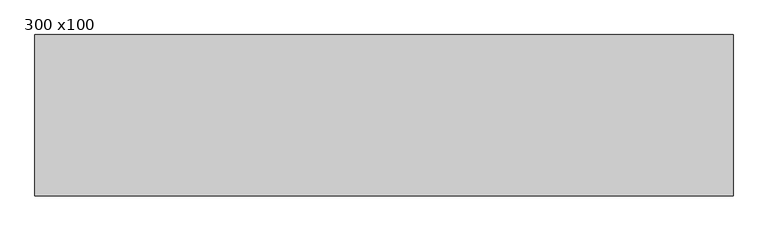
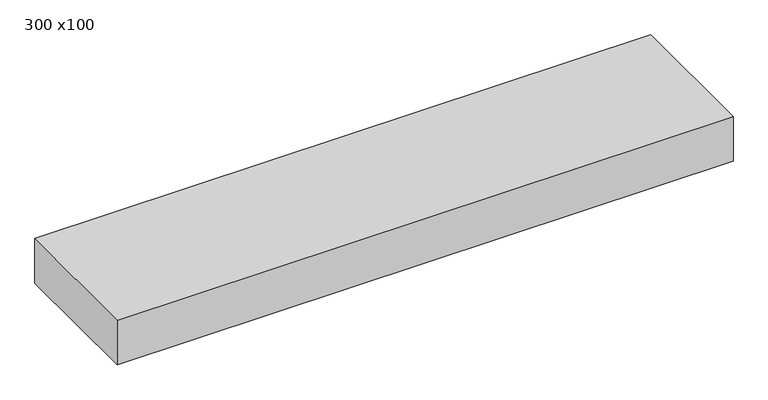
"""IFC4 building model written with IfcOpenShell, lengths in millimetres: beam geometry, Glulam-Especies occidentales : 300 x100."""

from ifc_helpers import new_model, si_unit, frame, origin, place, context, project, spatial, polyline, outline, extrude, source, transform, mapped, element, save


def beam_300_x100_1f1f1255(model_context):
    return source(origin(), model_context, "Body", "SweptSolid", [
        extrude(outline(polyline([(649.5, 150.0), (649.5, -150.0), (-649.5, -150.0), (-649.5, 150.0), (649.5, 150.0)])), frame((0.0, 0.0, -50.0), z_axis=(0.0, 0.0, 1.0), x_axis=(1.0, 0.0, 0.0)), (0.0, 0.0, 1.0), 100.0),
    ])


if __name__ == "__main__":
    model = new_model("IFC4")
    model_context = context("Model", 3, world=origin())
    ifc_project = project(units=[si_unit("LENGTHUNIT", "METRE", prefix="MILLI")], contexts=[model_context])
    site = spatial("IfcSite", under=ifc_project)
    building = spatial("IfcBuilding", under=site)
    placement = place(None, origin())
    beam_300_x100_shape = beam_300_x100_1f1f1255(model_context)
    element("IfcBeam", 1, ObjectType="Glulam-Especies occidentales : 300 x100", at=placement, inside=building, context=model_context, shape_type="MappedRepresentation", body=[
        mapped(beam_300_x100_shape, transform((0.0, 0.0, 0.0), x_axis=(1.0, 0.0, 0.0), y_axis=(0.0, 1.0, 0.0), z_axis=(0.0, 0.0, 1.0))),
    ])
    save(model, "model.ifc")
